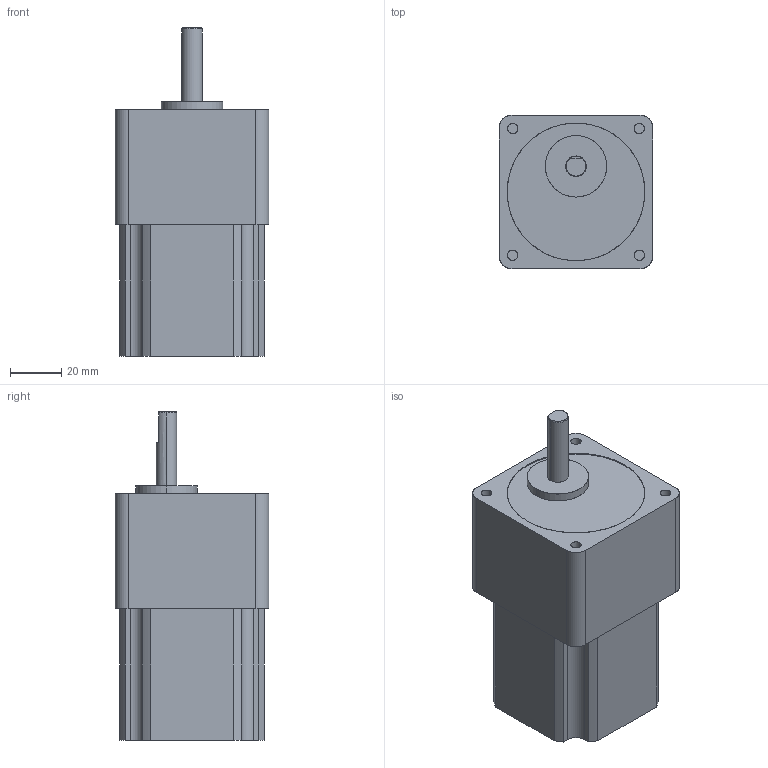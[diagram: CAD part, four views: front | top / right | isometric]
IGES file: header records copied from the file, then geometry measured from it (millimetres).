
Start section: SolidWorks IGES file using analytic representation for surfaces
Global section: file name: \\192.168.10.221\kari\7666\PMSB-B56D1ESD\PMSB-B56D1ESD.IGS; native system: SolidWorks 2009; preprocessor: SolidWorks 2009; author: user0051; date: 110919.125915; units: millimetre
Bounding box: 60 x 60 x 128.4 mm (x, y, z)
Surface area: 30745.8 mm2 (no closed solid volume)
Topology: 0 solids, 0 shells, 108 faces, 1216 edges, 1216 vertices
Faces by surface type: bspline 71, revolution 37
